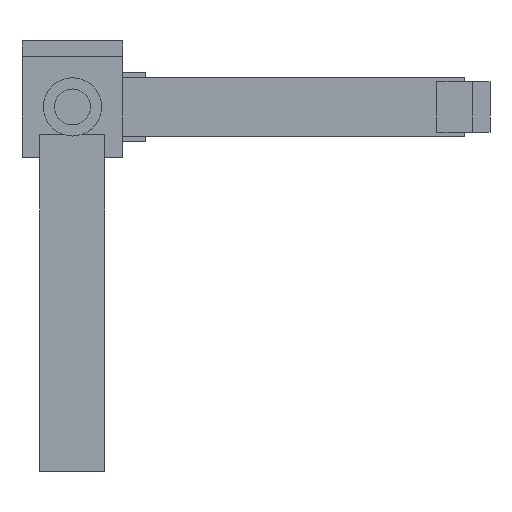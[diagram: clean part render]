
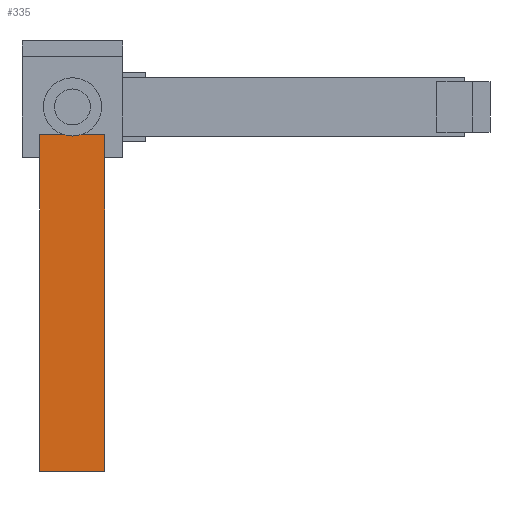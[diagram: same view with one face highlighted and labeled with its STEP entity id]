
A CAD part, front view. The second image highlights one B-rep face of the part: STEP entity #335.
In plain terms, the highlighted planar face has unit normal (0, -1, 0).
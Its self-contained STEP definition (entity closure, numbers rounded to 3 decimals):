
#119 = EDGE_CURVE('',#120,#122,#124,.T.);
#120 = VERTEX_POINT('',#121);
#121 = CARTESIAN_POINT('',(-29.,-24.,-325.));
#122 = VERTEX_POINT('',#123);
#123 = CARTESIAN_POINT('',(-29.,-24.,-25.));
#124 = SURFACE_CURVE('',#125,(#129,#141),.PCURVE_S1.);
#125 = LINE('',#126,#127);
#126 = CARTESIAN_POINT('',(-29.,-24.,-325.));
#127 = VECTOR('',#128,1.);
#128 = DIRECTION('',(0.,0.,1.));
#129 = PCURVE('',#130,#135);
#130 = PLANE('',#131);
#131 = AXIS2_PLACEMENT_3D('',#132,#133,#134);
#132 = CARTESIAN_POINT('',(-29.,-24.,-325.));
#133 = DIRECTION('',(1.,0.,-0.));
#134 = DIRECTION('',(0.,0.,1.));
#135 = DEFINITIONAL_REPRESENTATION('',(#136),#140);
#136 = LINE('',#137,#138);
#137 = CARTESIAN_POINT('',(0.,0.));
#138 = VECTOR('',#139,1.);
#139 = DIRECTION('',(1.,0.));
#140 = ( GEOMETRIC_REPRESENTATION_CONTEXT(2) 
PARAMETRIC_REPRESENTATION_CONTEXT() REPRESENTATION_CONTEXT('2D SPACE',''
  ) );
#141 = PCURVE('',#142,#147);
#142 = PLANE('',#143);
#143 = AXIS2_PLACEMENT_3D('',#144,#145,#146);
#144 = CARTESIAN_POINT('',(-29.,-24.,-325.));
#145 = DIRECTION('',(-0.,1.,0.));
#146 = DIRECTION('',(0.,0.,1.));
#147 = DEFINITIONAL_REPRESENTATION('',(#148),#152);
#148 = LINE('',#149,#150);
#149 = CARTESIAN_POINT('',(0.,0.));
#150 = VECTOR('',#151,1.);
#151 = DIRECTION('',(1.,0.));
#152 = ( GEOMETRIC_REPRESENTATION_CONTEXT(2) 
PARAMETRIC_REPRESENTATION_CONTEXT() REPRESENTATION_CONTEXT('2D SPACE',''
  ) );
#170 = PLANE('',#171);
#171 = AXIS2_PLACEMENT_3D('',#172,#173,#174);
#172 = CARTESIAN_POINT('',(-29.,-24.,-325.));
#173 = DIRECTION('',(0.,0.,1.));
#174 = DIRECTION('',(1.,0.,-0.));
#224 = PLANE('',#225);
#225 = AXIS2_PLACEMENT_3D('',#226,#227,#228);
#226 = CARTESIAN_POINT('',(-29.,-24.,-25.));
#227 = DIRECTION('',(0.,0.,1.));
#228 = DIRECTION('',(1.,0.,-0.));
#239 = EDGE_CURVE('',#240,#242,#244,.T.);
#240 = VERTEX_POINT('',#241);
#241 = CARTESIAN_POINT('',(29.,-24.,-325.));
#242 = VERTEX_POINT('',#243);
#243 = CARTESIAN_POINT('',(29.,-24.,-25.));
#244 = SURFACE_CURVE('',#245,(#249,#261),.PCURVE_S1.);
#245 = LINE('',#246,#247);
#246 = CARTESIAN_POINT('',(29.,-24.,-325.));
#247 = VECTOR('',#248,1.);
#248 = DIRECTION('',(0.,0.,1.));
#249 = PCURVE('',#250,#255);
#250 = PLANE('',#251);
#251 = AXIS2_PLACEMENT_3D('',#252,#253,#254);
#252 = CARTESIAN_POINT('',(29.,-24.,-325.));
#253 = DIRECTION('',(1.,0.,-0.));
#254 = DIRECTION('',(0.,0.,1.));
#255 = DEFINITIONAL_REPRESENTATION('',(#256),#260);
#256 = LINE('',#257,#258);
#257 = CARTESIAN_POINT('',(0.,0.));
#258 = VECTOR('',#259,1.);
#259 = DIRECTION('',(1.,0.));
#260 = ( GEOMETRIC_REPRESENTATION_CONTEXT(2) 
PARAMETRIC_REPRESENTATION_CONTEXT() REPRESENTATION_CONTEXT('2D SPACE',''
  ) );
#261 = PCURVE('',#142,#262);
#262 = DEFINITIONAL_REPRESENTATION('',(#263),#267);
#263 = LINE('',#264,#265);
#264 = CARTESIAN_POINT('',(0.,58.));
#265 = VECTOR('',#266,1.);
#266 = DIRECTION('',(1.,0.));
#267 = ( GEOMETRIC_REPRESENTATION_CONTEXT(2) 
PARAMETRIC_REPRESENTATION_CONTEXT() REPRESENTATION_CONTEXT('2D SPACE',''
  ) );
#335 = ADVANCED_FACE('',(#336),#142,.F.);
#336 = FACE_BOUND('',#337,.F.);
#337 = EDGE_LOOP('',(#338,#359,#360,#381));
#338 = ORIENTED_EDGE('',*,*,#339,.F.);
#339 = EDGE_CURVE('',#120,#240,#340,.T.);
#340 = SURFACE_CURVE('',#341,(#345,#352),.PCURVE_S1.);
#341 = LINE('',#342,#343);
#342 = CARTESIAN_POINT('',(-29.,-24.,-325.));
#343 = VECTOR('',#344,1.);
#344 = DIRECTION('',(1.,0.,-0.));
#345 = PCURVE('',#142,#346);
#346 = DEFINITIONAL_REPRESENTATION('',(#347),#351);
#347 = LINE('',#348,#349);
#348 = CARTESIAN_POINT('',(0.,0.));
#349 = VECTOR('',#350,1.);
#350 = DIRECTION('',(0.,1.));
#351 = ( GEOMETRIC_REPRESENTATION_CONTEXT(2) 
PARAMETRIC_REPRESENTATION_CONTEXT() REPRESENTATION_CONTEXT('2D SPACE',''
  ) );
#352 = PCURVE('',#170,#353);
#353 = DEFINITIONAL_REPRESENTATION('',(#354),#358);
#354 = LINE('',#355,#356);
#355 = CARTESIAN_POINT('',(0.,0.));
#356 = VECTOR('',#357,1.);
#357 = DIRECTION('',(1.,0.));
#358 = ( GEOMETRIC_REPRESENTATION_CONTEXT(2) 
PARAMETRIC_REPRESENTATION_CONTEXT() REPRESENTATION_CONTEXT('2D SPACE',''
  ) );
#359 = ORIENTED_EDGE('',*,*,#119,.T.);
#360 = ORIENTED_EDGE('',*,*,#361,.T.);
#361 = EDGE_CURVE('',#122,#242,#362,.T.);
#362 = SURFACE_CURVE('',#363,(#367,#374),.PCURVE_S1.);
#363 = LINE('',#364,#365);
#364 = CARTESIAN_POINT('',(-29.,-24.,-25.));
#365 = VECTOR('',#366,1.);
#366 = DIRECTION('',(1.,0.,-0.));
#367 = PCURVE('',#142,#368);
#368 = DEFINITIONAL_REPRESENTATION('',(#369),#373);
#369 = LINE('',#370,#371);
#370 = CARTESIAN_POINT('',(300.,0.));
#371 = VECTOR('',#372,1.);
#372 = DIRECTION('',(0.,1.));
#373 = ( GEOMETRIC_REPRESENTATION_CONTEXT(2) 
PARAMETRIC_REPRESENTATION_CONTEXT() REPRESENTATION_CONTEXT('2D SPACE',''
  ) );
#374 = PCURVE('',#224,#375);
#375 = DEFINITIONAL_REPRESENTATION('',(#376),#380);
#376 = LINE('',#377,#378);
#377 = CARTESIAN_POINT('',(0.,0.));
#378 = VECTOR('',#379,1.);
#379 = DIRECTION('',(1.,0.));
#380 = ( GEOMETRIC_REPRESENTATION_CONTEXT(2) 
PARAMETRIC_REPRESENTATION_CONTEXT() REPRESENTATION_CONTEXT('2D SPACE',''
  ) );
#381 = ORIENTED_EDGE('',*,*,#239,.F.);
